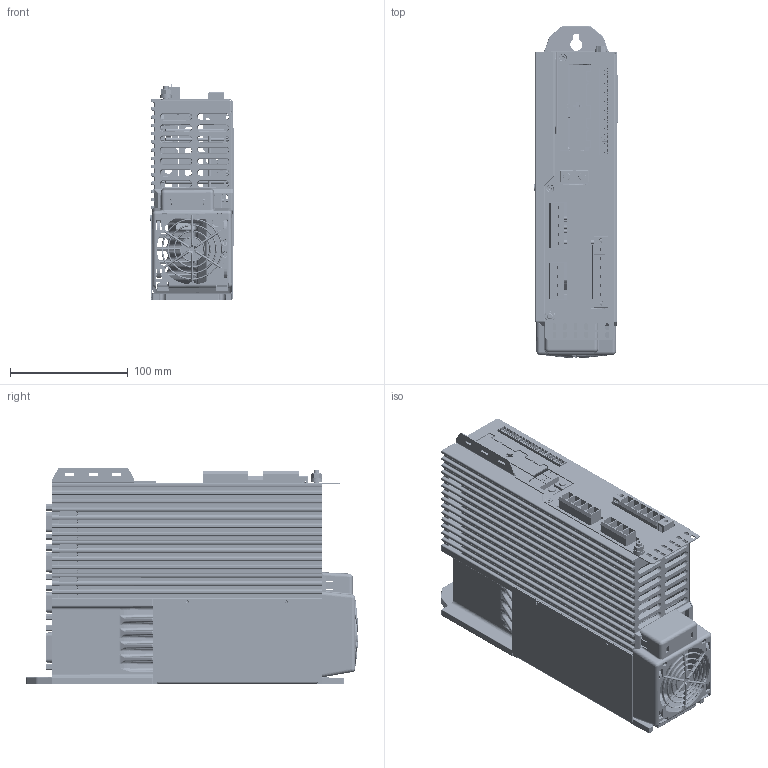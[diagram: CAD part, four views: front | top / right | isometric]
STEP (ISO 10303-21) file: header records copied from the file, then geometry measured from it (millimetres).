
FILE_DESCRIPTION( ( 'Unknown' ), '1' );
FILE_NAME( 'Y:/HW-Entwicklung/Servoverstärker/S300/Projektordner S300/05 Mechanik/3D-Daten_Lars/S300/Montage Druckguss/A.3.045.4_31_0.stp', 'Unknown', ( 'Unknown' ), ( 'Unknown' ), 'PSStep 15.0.49', 'Unknown', ' ' );
FILE_SCHEMA( ( 'AUTOMOTIVE_DESIGN { 1 0 10303 214 1 1 1 1 }' ) );
Length unit declared in the file: millimetre
Products named in the file (52): Klprint-oa2; KlemmenprintOutline; PC4_4; PC4_5_S_1; Display-oa1; DisplayOutline; 3ETL9; 7SEG; 8TMMH_D_C_RA; S300-oa3; SteuerprintOutline; PAD1.3; PAD1.3Kabel; 5FTR_D; DB9M; LB3_1; BOHR2; MC1505; MODU1-2; PC4_6_GMSTB; 8TMMH_D; MC1514; DB15FH; 25FTSH_DV_K; DB9F; PAD1.3Kabel_1; PAD1.3Kabel_2; Assem1; A.3.045.4_25_9; Lüfter S300; A.3.045.4.19_2; A.3.045.4.24_1; A.3.045.4_20_4; A.3.045.4_23_1; A.4.045.4.16_B_3; A.4.045.4_22_1; S300_Typenschild_3; A.4.051.4_04_0; BN5210_M5x20; ECONOPIM_neu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
Assembly tree (83 placements, depth 4):
  Assem1
    A.3.045.4_25_9
    Lüfter S300
    A.3.045.4.19_2
    A.3.045.4.24_1
    A.3.045.4_20_4
    A.3.045.4_23_1
    A.4.045.4.16_B_3
    A.4.045.4_22_1
    S300_Typenschild_3
    A.4.051.4_04_0
    BN5210_M5x20
    ECONOPIM_neu
    Federring DIN127 M5  x3
    Fächerscheibe M5
    Mutter M5
    PT K30x12  x4
    PT K30x6  x8
    PT K30x6-oa0
    PT_K30x6  x4
    Scheibe M5  x2
    Schraube M5x14 BN56
    Tempfühler
    S300-oa3
      SteuerprintOutline
      PAD1.3  x10
      PAD1.3Kabel
      5FTR_D
      DB9M  x2
      LB3_1
      LB3_1
      LB3_1
      BOHR2  x4
      MC1505
      MODU1-2
      PC4_6_GMSTB
      8TMMH_D
      MC1514
      DB15FH
      25FTSH_DV_K
      DB9F
      PAD1.3Kabel_1
      PAD1.3Kabel_2
      Display-oa1
        DisplayOutline
        3ETL9  x2
        7SEG  x3
        8TMMH_D_C_RA
      Klprint-oa2
        KlemmenprintOutline
        PC4_4
        PC4_5_S_1
Bounding box: 70.5 x 282 x 184.22 mm (x, y, z)
Volume: 736879.6 mm3; surface area: 581295.8 mm2
Topology: 80 solids, 82 shells, 13690 faces, 35189 edges, 21809 vertices
Faces by surface type: plane 8396, cylinder 3218, bspline 703, cone 577, torus 532, sphere 264
Full cylindrical faces by diameter (mm): 0.457 x3, 0.5 x2, 0.8 x3, 1 x86, 1.3 x12, 1.5 x21, 1.63 x20, 2.1 x4, 2.3 x1, 2.4 x2, 2.472 x1, 2.5 x11, 2.7 x14, 2.8 x30, 3 x29, 3.2 x15, 3.5 x1, 3.6 x4, 3.7 x1, 3.8 x3, 4 x17, 4.134 x1, 4.6 x1, 5 x3, 5.3 x3, 5.5 x16, 5.6 x4, 5.7 x3, 5.8 x4, 6.3 x6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
Entity records: 551739 total; most frequent: CARTESIAN_POINT 140583, ORIENTED_EDGE 64632, DIRECTION 62122, EDGE_CURVE 32316, LINE 22678, VECTOR 22678, VERTEX_POINT 20328, AXIS2_PLACEMENT_3D 19722
